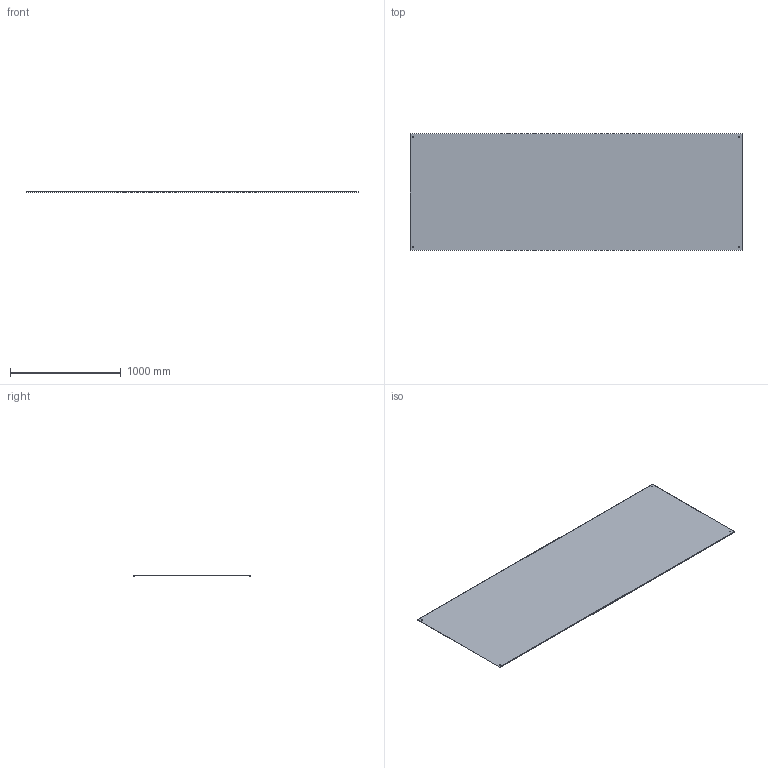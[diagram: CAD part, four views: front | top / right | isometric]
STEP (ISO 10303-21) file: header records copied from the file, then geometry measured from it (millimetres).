
FILE_DESCRIPTION(/* description */ ('','CAx-IF Rec.Pracs.---Representation and Presentation of Product Manufacturing Information (PMI)---4.0---2014-10-13'),/* implementation_level */ '2;1');
FILE_NAME(/* name */ 'Eurostrut_ECLSC-1000_Straight Cover for Cable Ladder ECL.step',/* time_stamp */ '2026-09-08T14:28:14+02:00',/* author */ (''),/* organization */ (''),/* preprocessor_version */ 'ST-DEVELOPER v20.1',/* originating_system */ 'Autodesk Revit 2027 27.2.0.39',/* authorisation */ '');
FILE_SCHEMA (('AP242_MANAGED_MODEL_BASED_3D_ENGINEERING_MIM_LF { 1 0 10303 442 2 1 4 }'));
Length unit declared in the file: millimetre
Products named in the file (2): TopLevelAssembly; Extrusion
Assembly tree (1 placements, depth 2):
  TopLevelAssembly
    Extrusion
Bounding box: 3000 x 1050 x 9 mm (x, y, z)
Volume: 4792028.8 mm3; surface area: 6401755.2 mm2
Topology: 1 solids, 1 shells, 18 faces, 48 edges, 32 vertices
Faces by surface type: plane 10, cylinder 8
Entity records: 618 total; most frequent: DIRECTION 106, CARTESIAN_POINT 101, ORIENTED_EDGE 96, EDGE_CURVE 48, AXIS2_PLACEMENT_3D 37, LINE 32, VECTOR 32, VERTEX_POINT 32
